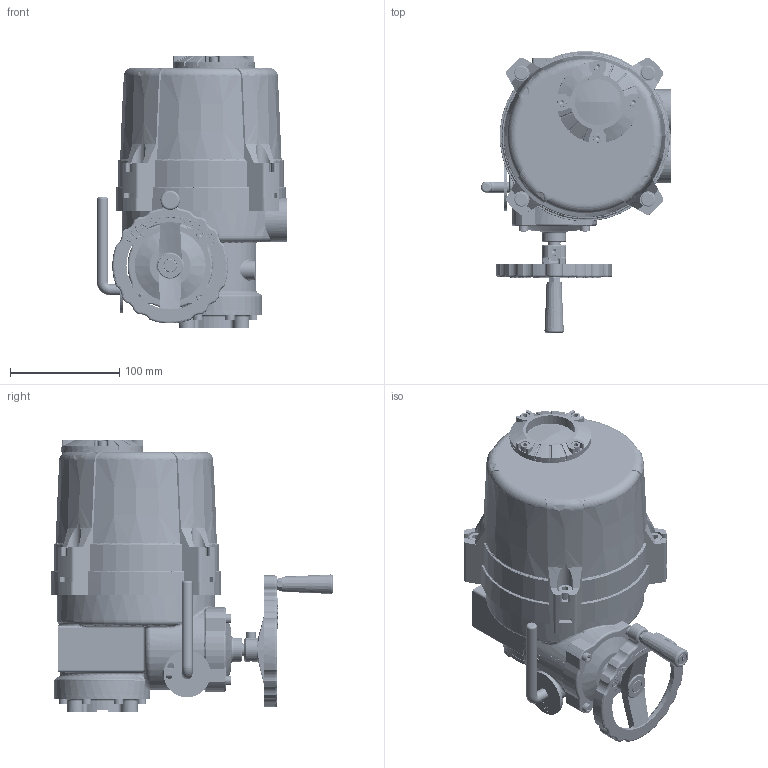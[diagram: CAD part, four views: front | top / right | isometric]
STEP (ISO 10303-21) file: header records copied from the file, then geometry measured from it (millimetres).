
FILE_DESCRIPTION(('Open CASCADE Model'),'2;1');
FILE_NAME('Open CASCADE Shape Model','2023-01-25T15:26:29',('Author'),( 'Open CASCADE'),'Open CASCADE STEP processor 7.3','Open CASCADE 7.3' ,'Unknown');
FILE_SCHEMA(('AUTOMOTIVE_DESIGN { 1 0 10303 214 1 1 1 1 }'));
Length unit declared in the file: millimetre
Products named in the file (34): Open CASCADE STEP translator 7.3 1; Open CASCADE STEP translator 7.3 1.1; Open CASCADE STEP translator 7.3 1.2; Open CASCADE STEP translator 7.3 1.3; Open CASCADE STEP translator 7.3 1.4; Open CASCADE STEP translator 7.3 1.5; Open CASCADE STEP translator 7.3 1.6; Open CASCADE STEP translator 7.3 1.7; Open CASCADE STEP translator 7.3 1.8; Open CASCADE STEP translator 7.3 1.9; Open CASCADE STEP translator 7.3 1.10; Open CASCADE STEP translator 7.3 1.11; Open CASCADE STEP translator 7.3 1.12; Open CASCADE STEP translator 7.3 1.13; Open CASCADE STEP translator 7.3 1.14; Open CASCADE STEP translator 7.3 1.15; Open CASCADE STEP translator 7.3 1.16; Open CASCADE STEP translator 7.3 1.17; Open CASCADE STEP translator 7.3 1.18; Open CASCADE STEP translator 7.3 1.19; Open CASCADE STEP translator 7.3 1.20; Open CASCADE STEP translator 7.3 1.21; Open CASCADE STEP translator 7.3 1.22; Open CASCADE STEP translator 7.3 1.23; Open CASCADE STEP translator 7.3 1.24; Open CASCADE STEP translator 7.3 1.25; Open CASCADE STEP translator 7.3 1.26; Open CASCADE STEP translator 7.3 1.27; Open CASCADE STEP translator 7.3 1.28; Open CASCADE STEP translator 7.3 1.29; Open CASCADE STEP translator 7.3 1.30; Open CASCADE STEP translator 7.3 1.31; Open CASCADE STEP translator 7.3 1.32; Open CASCADE STEP translator 7.3 1.33
Assembly tree (33 placements, depth 2):
  Open CASCADE STEP translator 7.3 1
    Open CASCADE STEP translator 7.3 1.1
    Open CASCADE STEP translator 7.3 1.2
    Open CASCADE STEP translator 7.3 1.3
    Open CASCADE STEP translator 7.3 1.4
    Open CASCADE STEP translator 7.3 1.5
    Open CASCADE STEP translator 7.3 1.6
    Open CASCADE STEP translator 7.3 1.7
    Open CASCADE STEP translator 7.3 1.8
    Open CASCADE STEP translator 7.3 1.9
    Open CASCADE STEP translator 7.3 1.10
    Open CASCADE STEP translator 7.3 1.11
    Open CASCADE STEP translator 7.3 1.12
    Open CASCADE STEP translator 7.3 1.13
    Open CASCADE STEP translator 7.3 1.14
    Open CASCADE STEP translator 7.3 1.15
    Open CASCADE STEP translator 7.3 1.16
    Open CASCADE STEP translator 7.3 1.17
    Open CASCADE STEP translator 7.3 1.18
    Open CASCADE STEP translator 7.3 1.19
    Open CASCADE STEP translator 7.3 1.20
    Open CASCADE STEP translator 7.3 1.21
    Open CASCADE STEP translator 7.3 1.22
    Open CASCADE STEP translator 7.3 1.23
    Open CASCADE STEP translator 7.3 1.24
    Open CASCADE STEP translator 7.3 1.25
    Open CASCADE STEP translator 7.3 1.26
    Open CASCADE STEP translator 7.3 1.27
    Open CASCADE STEP translator 7.3 1.28
    Open CASCADE STEP translator 7.3 1.29
    Open CASCADE STEP translator 7.3 1.30
    Open CASCADE STEP translator 7.3 1.31
    Open CASCADE STEP translator 7.3 1.32
    Open CASCADE STEP translator 7.3 1.33
Bounding box: 174 x 258 x 249 mm (x, y, z)
Volume: 1336502.5 mm3; surface area: 420858.2 mm2
Topology: 33 solids, 33 shells, 3999 faces, 9012 edges, 5150 vertices
Faces by surface type: cone 1369, cylinder 1321, plane 753, torus 275, bspline 247, sphere 22, revolution 12
Entity records: 296584 total; most frequent: CARTESIAN_POINT 116207, DIRECTION 34192, LINE 17931, VECTOR 17931, ORIENTED_EDGE 17892, PCURVE 17892, DEFINITIONAL_REPRESENTATION 17892, EDGE_CURVE 8946
